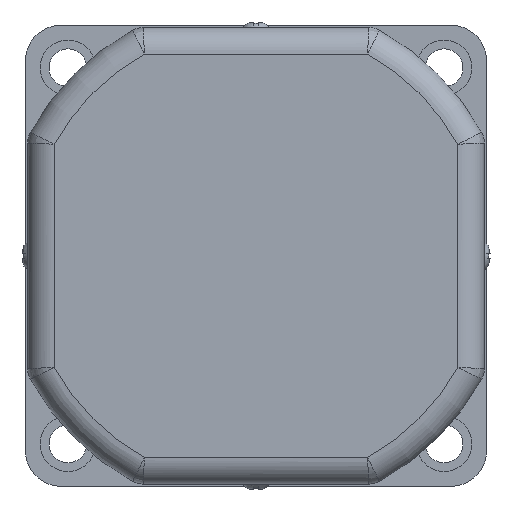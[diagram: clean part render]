
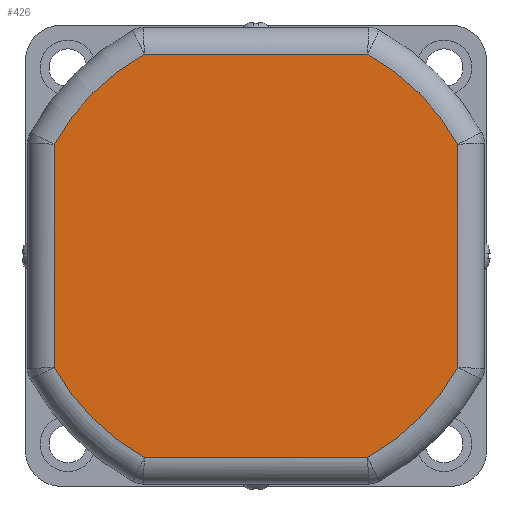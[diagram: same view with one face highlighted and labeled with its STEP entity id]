
A CAD part, left-side view. The second image highlights one B-rep face of the part: STEP entity #426.
In plain terms, the highlighted planar face has unit normal (-1, 0, 0).
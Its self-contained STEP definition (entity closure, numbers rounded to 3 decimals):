
#351=CARTESIAN_POINT('',(-20.,0.,0.));
#352=DIRECTION('',(-1.0,0.0,0.0));
#353=DIRECTION('',(0.0,0.0,1.0));
#354=AXIS2_PLACEMENT_3D('',#351,#352,#353);
#355=PLANE('',#354);
#356=CARTESIAN_POINT('',(-20.,25.174,45.5));
#357=VERTEX_POINT('',#356);
#358=CARTESIAN_POINT('',(-20.,-25.174,45.5));
#359=VERTEX_POINT('',#358);
#360=CARTESIAN_POINT('',(-20.,25.174,45.5));
#361=DIRECTION('',(0.0,-1.0,0.0));
#362=VECTOR('',#361,50.349);
#363=LINE('',#360,#362);
#364=EDGE_CURVE('',#357,#359,#363,.T.);
#365=ORIENTED_EDGE('',*,*,#364,.F.);
#366=CARTESIAN_POINT('',(-20.,45.5,25.174));
#367=VERTEX_POINT('',#366);
#368=CARTESIAN_POINT('',(-20.,0.,0.));
#369=DIRECTION('',(1.0,0.0,0.0));
#370=DIRECTION('',(0.0,0.707,0.707));
#371=AXIS2_PLACEMENT_3D('',#368,#369,#370);
#372=CIRCLE('',#371,52.);
#373=EDGE_CURVE('',#367,#357,#372,.T.);
#374=ORIENTED_EDGE('',*,*,#373,.F.);
#375=CARTESIAN_POINT('',(-20.,45.5,-25.174));
#376=VERTEX_POINT('',#375);
#377=CARTESIAN_POINT('',(-20.,45.5,-25.174));
#378=DIRECTION('',(0.0,0.0,1.0));
#379=VECTOR('',#378,50.349);
#380=LINE('',#377,#379);
#381=EDGE_CURVE('',#376,#367,#380,.T.);
#382=ORIENTED_EDGE('',*,*,#381,.F.);
#383=CARTESIAN_POINT('',(-20.,25.174,-45.5));
#384=VERTEX_POINT('',#383);
#385=CARTESIAN_POINT('',(-20.,0.,0.));
#386=DIRECTION('',(1.0,0.0,0.0));
#387=DIRECTION('',(0.0,0.707,-0.707));
#388=AXIS2_PLACEMENT_3D('',#385,#386,#387);
#389=CIRCLE('',#388,52.);
#390=EDGE_CURVE('',#384,#376,#389,.T.);
#391=ORIENTED_EDGE('',*,*,#390,.F.);
#392=CARTESIAN_POINT('',(-20.,-25.174,-45.5));
#393=VERTEX_POINT('',#392);
#394=CARTESIAN_POINT('',(-20.,-25.174,-45.5));
#395=DIRECTION('',(0.0,1.0,0.0));
#396=VECTOR('',#395,50.349);
#397=LINE('',#394,#396);
#398=EDGE_CURVE('',#393,#384,#397,.T.);
#399=ORIENTED_EDGE('',*,*,#398,.F.);
#400=CARTESIAN_POINT('',(-20.,-45.5,-25.174));
#401=VERTEX_POINT('',#400);
#402=CARTESIAN_POINT('',(-20.,0.,0.));
#403=DIRECTION('',(1.0,0.0,0.0));
#404=DIRECTION('',(0.0,-0.707,-0.707));
#405=AXIS2_PLACEMENT_3D('',#402,#403,#404);
#406=CIRCLE('',#405,52.);
#407=EDGE_CURVE('',#401,#393,#406,.T.);
#408=ORIENTED_EDGE('',*,*,#407,.F.);
#409=CARTESIAN_POINT('',(-20.,-45.5,25.174));
#410=VERTEX_POINT('',#409);
#411=CARTESIAN_POINT('',(-20.,-45.5,25.174));
#412=DIRECTION('',(0.0,0.0,-1.0));
#413=VECTOR('',#412,50.349);
#414=LINE('',#411,#413);
#415=EDGE_CURVE('',#410,#401,#414,.T.);
#416=ORIENTED_EDGE('',*,*,#415,.F.);
#417=CARTESIAN_POINT('',(-20.,0.,0.));
#418=DIRECTION('',(1.0,0.0,0.0));
#419=DIRECTION('',(0.0,-0.707,0.707));
#420=AXIS2_PLACEMENT_3D('',#417,#418,#419);
#421=CIRCLE('',#420,52.);
#422=EDGE_CURVE('',#359,#410,#421,.T.);
#423=ORIENTED_EDGE('',*,*,#422,.F.);
#424=EDGE_LOOP('',(#365,#374,#382,#391,#399,#408,#416,#423));
#425=FACE_OUTER_BOUND('',#424,.T.);
#426=ADVANCED_FACE('',(#425),#355,.T.);
